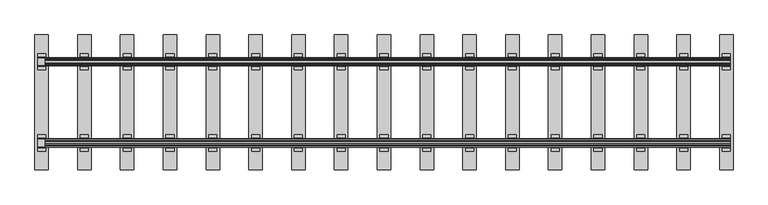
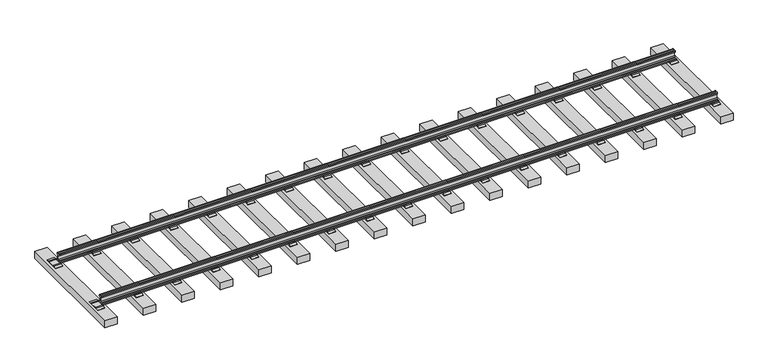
"""IFC4 building model written with IfcOpenShell, lengths in millimetres: railing geometry, Koleje."""

from ifc_helpers import new_model, si_unit, point, frame, frame_2d, origin, place, context, project, spatial, polyline, circle_curve, trimmed, segment, composite_curve, outline, extrude, source, transform, mapped, element, save


def railing_398ba902(model_context):
    return source(origin(), model_context, "Body", "SweptSolid", [
        extrude(outline(composite_curve([segment(polyline([(15149.673338, 161.9663444), (15122.673338, 147.0), (15122.673338, 65.0)]), True, "CONTINUOUS"), segment(trimmed(circle_curve(frame_2d((15143.173338, 65.0)), 20.5), [point((15122.673338, 65.0))], [point((15137.3259039, 45.3516536))], True, "CARTESIAN"), True, "CONTINUOUS"), segment(polyline([(15137.3259039, 45.3516536), (15154.9174827, 39.9733683)]), True, "CONTINUOUS"), segment(trimmed(circle_curve(frame_2d((15177.8072191, 126.5921559)), 89.5921559), [point((15154.9174827, 39.9733683))], [point((15177.8072191, 37.0))], True, "CARTESIAN"), True, "CONTINUOUS"), segment(polyline([(15177.8072191, 37.0), (15187.673338, 37.0), (15187.673338, 15.0), (15037.673338, 15.0), (15037.673338, 37.0), (15047.539457, 37.0)]), True, "CONTINUOUS"), segment(trimmed(circle_curve(frame_2d((15047.539457, 116.8785391)), 79.8785391), [point((15047.539457, 37.0))], [point((15070.4291934, 40.3498453))], True, "CARTESIAN"), True, "CONTINUOUS"), segment(polyline([(15070.4291934, 40.3498453), (15088.0207721, 45.7281306)]), True, "CONTINUOUS"), segment(trimmed(circle_curve(frame_2d((15082.673338, 65.0)), 20.0), [point((15088.0207721, 45.7281306))], [point((15102.673338, 65.0))], True, "CARTESIAN"), True, "CONTINUOUS"), segment(polyline([(15102.673338, 65.0), (15102.673338, 147.0), (15075.673338, 161.9663444), (15075.673338, 176.5)]), True, "CONTINUOUS"), segment(trimmed(circle_curve(frame_2d((15094.173338, 176.5)), 18.5), [point((15075.673338, 176.5))], [point((15094.173338, 195.0))], False, "CARTESIAN"), True, "CONTINUOUS"), segment(polyline([(15094.173338, 195.0), (15131.173338, 195.0)]), True, "CONTINUOUS"), segment(trimmed(circle_curve(frame_2d((15131.173338, 176.5)), 18.5), [point((15131.173338, 195.0))], [point((15149.673338, 176.5))], False, "CARTESIAN"), True, "CONTINUOUS"), segment(polyline([(15149.673338, 176.5), (15149.673338, 161.9663444)]), True, "CONTINUOUS")], self_intersect=False)), frame((27322.5749198, 0.0, 0.0), z_axis=(1.0, 0.0, 0.0), x_axis=(0.0, 1.0, 0.0)), (0.0, 0.0, 1.0), 12700.0),
        extrude(outline(composite_curve([segment(polyline([(16658.673338, 161.9663444), (16631.673338, 147.0), (16631.673338, 65.0)]), True, "CONTINUOUS"), segment(trimmed(circle_curve(frame_2d((16652.173338, 65.0)), 20.5), [point((16631.673338, 65.0))], [point((16646.3259039, 45.3516536))], True, "CARTESIAN"), True, "CONTINUOUS"), segment(polyline([(16646.3259039, 45.3516536), (16663.9174827, 39.9733683)]), True, "CONTINUOUS"), segment(trimmed(circle_curve(frame_2d((16686.8072191, 126.5921559)), 89.5921559), [point((16663.9174827, 39.9733683))], [point((16686.8072191, 37.0))], True, "CARTESIAN"), True, "CONTINUOUS"), segment(polyline([(16686.8072191, 37.0), (16696.673338, 37.0), (16696.673338, 15.0), (16546.673338, 15.0), (16546.673338, 37.0), (16556.539457, 37.0)]), True, "CONTINUOUS"), segment(trimmed(circle_curve(frame_2d((16556.539457, 116.8785391)), 79.8785391), [point((16556.539457, 37.0))], [point((16579.4291934, 40.3498453))], True, "CARTESIAN"), True, "CONTINUOUS"), segment(polyline([(16579.4291934, 40.3498453), (16597.0207721, 45.7281306)]), True, "CONTINUOUS"), segment(trimmed(circle_curve(frame_2d((16591.673338, 65.0)), 20.0), [point((16597.0207721, 45.7281306))], [point((16611.673338, 65.0))], True, "CARTESIAN"), True, "CONTINUOUS"), segment(polyline([(16611.673338, 65.0), (16611.673338, 147.0), (16584.673338, 161.9663444), (16584.673338, 176.5)]), True, "CONTINUOUS"), segment(trimmed(circle_curve(frame_2d((16603.173338, 176.5)), 18.5), [point((16584.673338, 176.5))], [point((16603.173338, 195.0))], False, "CARTESIAN"), True, "CONTINUOUS"), segment(polyline([(16603.173338, 195.0), (16640.173338, 195.0)]), True, "CONTINUOUS"), segment(trimmed(circle_curve(frame_2d((16640.173338, 176.5)), 18.5), [point((16640.173338, 195.0))], [point((16658.673338, 176.5))], False, "CARTESIAN"), True, "CONTINUOUS"), segment(polyline([(16658.673338, 176.5), (16658.673338, 161.9663444)]), True, "CONTINUOUS")], self_intersect=False)), frame((27322.5749198, 0.0, 0.0), z_axis=(1.0, 0.0, 0.0), x_axis=(0.0, 1.0, 0.0)), (0.0, 0.0, 1.0), 12700.0),
        extrude(outline(polyline([(16771.673338, 0.0), (16471.673338, 0.0), (16471.673338, 7.5), (16531.673338, 15.0), (16546.673338, 30.0), (16546.673338, 15.0), (16696.673338, 15.0), (16696.673338, 30.0), (16711.673338, 15.0), (16771.673338, 7.5), (16771.673338, 0.0)])), frame((39085.9618427, 0.0, 0.0), z_axis=(1.0, 0.0, 0.0), x_axis=(0.0, 1.0, 0.0)), (0.0, 0.0, 1.0), 150.0),
        extrude(outline(polyline([(15262.673338, 0.0), (14962.673338, 0.0), (14962.673338, 7.5), (15022.673338, 15.0), (15037.673338, 30.0), (15037.673338, 15.0), (15187.673338, 15.0), (15187.673338, 30.0), (15202.673338, 15.0), (15262.673338, 7.5), (15262.673338, 0.0)])), frame((39085.9618427, 0.0, 0.0), z_axis=(1.0, 0.0, 0.0), x_axis=(0.0, 1.0, 0.0)), (0.0, 0.0, 1.0), 150.0),
        extrude(outline(polyline([(39035.9618427, 17117.173338), (39285.9618427, 17117.173338), (39285.9618427, 14617.173338), (39035.9618427, 14617.173338), (39035.9618427, 17117.173338)])), frame((0.0, 0.0, -150.0), z_axis=(0.0, 0.0, 1.0), x_axis=(1.0, 0.0, 0.0)), (0.0, 0.0, 1.0), 150.0),
        extrude(outline(polyline([(16771.673338, 0.0), (16471.673338, 0.0), (16471.673338, 7.5), (16531.673338, 15.0), (16546.673338, 30.0), (16546.673338, 15.0), (16696.673338, 15.0), (16696.673338, 30.0), (16711.673338, 15.0), (16771.673338, 7.5), (16771.673338, 0.0)])), frame((38292.2118427, 0.0, 0.0), z_axis=(1.0, 0.0, 0.0), x_axis=(0.0, 1.0, 0.0)), (0.0, 0.0, 1.0), 150.0),
        extrude(outline(polyline([(15262.673338, 0.0), (14962.673338, 0.0), (14962.673338, 7.5), (15022.673338, 15.0), (15037.673338, 30.0), (15037.673338, 15.0), (15187.673338, 15.0), (15187.673338, 30.0), (15202.673338, 15.0), (15262.673338, 7.5), (15262.673338, 0.0)])), frame((38292.2118427, 0.0, 0.0), z_axis=(1.0, 0.0, 0.0), x_axis=(0.0, 1.0, 0.0)), (0.0, 0.0, 1.0), 150.0),
        extrude(outline(polyline([(38242.2118427, 17117.173338), (38492.2118427, 17117.173338), (38492.2118427, 14617.173338), (38242.2118427, 14617.173338), (38242.2118427, 17117.173338)])), frame((0.0, 0.0, -150.0), z_axis=(0.0, 0.0, 1.0), x_axis=(1.0, 0.0, 0.0)), (0.0, 0.0, 1.0), 150.0),
        extrude(outline(polyline([(16771.673338, 0.0), (16471.673338, 0.0), (16471.673338, 7.5), (16531.673338, 15.0), (16546.673338, 30.0), (16546.673338, 15.0), (16696.673338, 15.0), (16696.673338, 30.0), (16711.673338, 15.0), (16771.673338, 7.5), (16771.673338, 0.0)])), frame((37498.4618427, 0.0, 0.0), z_axis=(1.0, 0.0, 0.0), x_axis=(0.0, 1.0, 0.0)), (0.0, 0.0, 1.0), 150.0),
        extrude(outline(polyline([(15262.673338, 0.0), (14962.673338, 0.0), (14962.673338, 7.5), (15022.673338, 15.0), (15037.673338, 30.0), (15037.673338, 15.0), (15187.673338, 15.0), (15187.673338, 30.0), (15202.673338, 15.0), (15262.673338, 7.5), (15262.673338, 0.0)])), frame((37498.4618427, 0.0, 0.0), z_axis=(1.0, 0.0, 0.0), x_axis=(0.0, 1.0, 0.0)), (0.0, 0.0, 1.0), 150.0),
        extrude(outline(polyline([(37448.4618427, 17117.173338), (37698.4618427, 17117.173338), (37698.4618427, 14617.173338), (37448.4618427, 14617.173338), (37448.4618427, 17117.173338)])), frame((0.0, 0.0, -150.0), z_axis=(0.0, 0.0, 1.0), x_axis=(1.0, 0.0, 0.0)), (0.0, 0.0, 1.0), 150.0),
        extrude(outline(polyline([(16771.673338, 0.0), (16471.673338, 0.0), (16471.673338, 7.5), (16531.673338, 15.0), (16546.673338, 30.0), (16546.673338, 15.0), (16696.673338, 15.0), (16696.673338, 30.0), (16711.673338, 15.0), (16771.673338, 7.5), (16771.673338, 0.0)])), frame((36704.7118427, 0.0, 0.0), z_axis=(1.0, 0.0, 0.0), x_axis=(0.0, 1.0, 0.0)), (0.0, 0.0, 1.0), 150.0),
        extrude(outline(polyline([(15262.673338, 0.0), (14962.673338, 0.0), (14962.673338, 7.5), (15022.673338, 15.0), (15037.673338, 30.0), (15037.673338, 15.0), (15187.673338, 15.0), (15187.673338, 30.0), (15202.673338, 15.0), (15262.673338, 7.5), (15262.673338, 0.0)])), frame((36704.7118427, 0.0, 0.0), z_axis=(1.0, 0.0, 0.0), x_axis=(0.0, 1.0, 0.0)), (0.0, 0.0, 1.0), 150.0),
        extrude(outline(polyline([(36654.7118427, 17117.173338), (36904.7118427, 17117.173338), (36904.7118427, 14617.173338), (36654.7118427, 14617.173338), (36654.7118427, 17117.173338)])), frame((0.0, 0.0, -150.0), z_axis=(0.0, 0.0, 1.0), x_axis=(1.0, 0.0, 0.0)), (0.0, 0.0, 1.0), 150.0),
        extrude(outline(polyline([(16771.673338, 0.0), (16471.673338, 0.0), (16471.673338, 7.5), (16531.673338, 15.0), (16546.673338, 30.0), (16546.673338, 15.0), (16696.673338, 15.0), (16696.673338, 30.0), (16711.673338, 15.0), (16771.673338, 7.5), (16771.673338, 0.0)])), frame((35910.9618427, 0.0, 0.0), z_axis=(1.0, 0.0, 0.0), x_axis=(0.0, 1.0, 0.0)), (0.0, 0.0, 1.0), 150.0),
        extrude(outline(polyline([(15262.673338, 0.0), (14962.673338, 0.0), (14962.673338, 7.5), (15022.673338, 15.0), (15037.673338, 30.0), (15037.673338, 15.0), (15187.673338, 15.0), (15187.673338, 30.0), (15202.673338, 15.0), (15262.673338, 7.5), (15262.673338, 0.0)])), frame((35910.9618427, 0.0, 0.0), z_axis=(1.0, 0.0, 0.0), x_axis=(0.0, 1.0, 0.0)), (0.0, 0.0, 1.0), 150.0),
        extrude(outline(polyline([(35860.9618427, 17117.173338), (36110.9618427, 17117.173338), (36110.9618427, 14617.173338), (35860.9618427, 14617.173338), (35860.9618427, 17117.173338)])), frame((0.0, 0.0, -150.0), z_axis=(0.0, 0.0, 1.0), x_axis=(1.0, 0.0, 0.0)), (0.0, 0.0, 1.0), 150.0),
        extrude(outline(polyline([(16771.673338, 0.0), (16471.673338, 0.0), (16471.673338, 7.5), (16531.673338, 15.0), (16546.673338, 30.0), (16546.673338, 15.0), (16696.673338, 15.0), (16696.673338, 30.0), (16711.673338, 15.0), (16771.673338, 7.5), (16771.673338, 0.0)])), frame((35117.2118427, 0.0, 0.0), z_axis=(1.0, 0.0, 0.0), x_axis=(0.0, 1.0, 0.0)), (0.0, 0.0, 1.0), 150.0),
        extrude(outline(polyline([(15262.673338, 0.0), (14962.673338, 0.0), (14962.673338, 7.5), (15022.673338, 15.0), (15037.673338, 30.0), (15037.673338, 15.0), (15187.673338, 15.0), (15187.673338, 30.0), (15202.673338, 15.0), (15262.673338, 7.5), (15262.673338, 0.0)])), frame((35117.2118427, 0.0, 0.0), z_axis=(1.0, 0.0, 0.0), x_axis=(0.0, 1.0, 0.0)), (0.0, 0.0, 1.0), 150.0),
        extrude(outline(polyline([(35067.2118427, 17117.173338), (35317.2118427, 17117.173338), (35317.2118427, 14617.173338), (35067.2118427, 14617.173338), (35067.2118427, 17117.173338)])), frame((0.0, 0.0, -150.0), z_axis=(0.0, 0.0, 1.0), x_axis=(1.0, 0.0, 0.0)), (0.0, 0.0, 1.0), 150.0),
        extrude(outline(polyline([(16771.673338, 0.0), (16471.673338, 0.0), (16471.673338, 7.5), (16531.673338, 15.0), (16546.673338, 30.0), (16546.673338, 15.0), (16696.673338, 15.0), (16696.673338, 30.0), (16711.673338, 15.0), (16771.673338, 7.5), (16771.673338, 0.0)])), frame((34323.4618427, 0.0, 0.0), z_axis=(1.0, 0.0, 0.0), x_axis=(0.0, 1.0, 0.0)), (0.0, 0.0, 1.0), 150.0),
        extrude(outline(polyline([(15262.673338, 0.0), (14962.673338, 0.0), (14962.673338, 7.5), (15022.673338, 15.0), (15037.673338, 30.0), (15037.673338, 15.0), (15187.673338, 15.0), (15187.673338, 30.0), (15202.673338, 15.0), (15262.673338, 7.5), (15262.673338, 0.0)])), frame((34323.4618427, 0.0, 0.0), z_axis=(1.0, 0.0, 0.0), x_axis=(0.0, 1.0, 0.0)), (0.0, 0.0, 1.0), 150.0),
        extrude(outline(polyline([(34273.4618427, 17117.173338), (34523.4618427, 17117.173338), (34523.4618427, 14617.173338), (34273.4618427, 14617.173338), (34273.4618427, 17117.173338)])), frame((0.0, 0.0, -150.0), z_axis=(0.0, 0.0, 1.0), x_axis=(1.0, 0.0, 0.0)), (0.0, 0.0, 1.0), 150.0),
        extrude(outline(polyline([(16771.673338, 0.0), (16471.673338, 0.0), (16471.673338, 7.5), (16531.673338, 15.0), (16546.673338, 30.0), (16546.673338, 15.0), (16696.673338, 15.0), (16696.673338, 30.0), (16711.673338, 15.0), (16771.673338, 7.5), (16771.673338, 0.0)])), frame((33529.7118427, 0.0, 0.0), z_axis=(1.0, 0.0, 0.0), x_axis=(0.0, 1.0, 0.0)), (0.0, 0.0, 1.0), 150.0),
        extrude(outline(polyline([(15262.673338, 0.0), (14962.673338, 0.0), (14962.673338, 7.5), (15022.673338, 15.0), (15037.673338, 30.0), (15037.673338, 15.0), (15187.673338, 15.0), (15187.673338, 30.0), (15202.673338, 15.0), (15262.673338, 7.5), (15262.673338, 0.0)])), frame((33529.7118427, 0.0, 0.0), z_axis=(1.0, 0.0, 0.0), x_axis=(0.0, 1.0, 0.0)), (0.0, 0.0, 1.0), 150.0),
        extrude(outline(polyline([(33479.7118427, 17117.173338), (33729.7118427, 17117.173338), (33729.7118427, 14617.173338), (33479.7118427, 14617.173338), (33479.7118427, 17117.173338)])), frame((0.0, 0.0, -150.0), z_axis=(0.0, 0.0, 1.0), x_axis=(1.0, 0.0, 0.0)), (0.0, 0.0, 1.0), 150.0),
        extrude(outline(polyline([(16771.673338, 0.0), (16471.673338, 0.0), (16471.673338, 7.5), (16531.673338, 15.0), (16546.673338, 30.0), (16546.673338, 15.0), (16696.673338, 15.0), (16696.673338, 30.0), (16711.673338, 15.0), (16771.673338, 7.5), (16771.673338, 0.0)])), frame((32735.9618427, 0.0, 0.0), z_axis=(1.0, 0.0, 0.0), x_axis=(0.0, 1.0, 0.0)), (0.0, 0.0, 1.0), 150.0),
        extrude(outline(polyline([(15262.673338, 0.0), (14962.673338, 0.0), (14962.673338, 7.5), (15022.673338, 15.0), (15037.673338, 30.0), (15037.673338, 15.0), (15187.673338, 15.0), (15187.673338, 30.0), (15202.673338, 15.0), (15262.673338, 7.5), (15262.673338, 0.0)])), frame((32735.9618427, 0.0, 0.0), z_axis=(1.0, 0.0, 0.0), x_axis=(0.0, 1.0, 0.0)), (0.0, 0.0, 1.0), 150.0),
        extrude(outline(polyline([(32685.9618427, 17117.173338), (32935.9618427, 17117.173338), (32935.9618427, 14617.173338), (32685.9618427, 14617.173338), (32685.9618427, 17117.173338)])), frame((0.0, 0.0, -150.0), z_axis=(0.0, 0.0, 1.0), x_axis=(1.0, 0.0, 0.0)), (0.0, 0.0, 1.0), 150.0),
        extrude(outline(polyline([(16771.673338, 0.0), (16471.673338, 0.0), (16471.673338, 7.5), (16531.673338, 15.0), (16546.673338, 30.0), (16546.673338, 15.0), (16696.673338, 15.0), (16696.673338, 30.0), (16711.673338, 15.0), (16771.673338, 7.5), (16771.673338, 0.0)])), frame((31942.2118427, 0.0, 0.0), z_axis=(1.0, 0.0, 0.0), x_axis=(0.0, 1.0, 0.0)), (0.0, 0.0, 1.0), 150.0),
        extrude(outline(polyline([(15262.673338, 0.0), (14962.673338, 0.0), (14962.673338, 7.5), (15022.673338, 15.0), (15037.673338, 30.0), (15037.673338, 15.0), (15187.673338, 15.0), (15187.673338, 30.0), (15202.673338, 15.0), (15262.673338, 7.5), (15262.673338, 0.0)])), frame((31942.2118427, 0.0, 0.0), z_axis=(1.0, 0.0, 0.0), x_axis=(0.0, 1.0, 0.0)), (0.0, 0.0, 1.0), 150.0),
        extrude(outline(polyline([(31892.2118427, 17117.173338), (32142.2118427, 17117.173338), (32142.2118427, 14617.173338), (31892.2118427, 14617.173338), (31892.2118427, 17117.173338)])), frame((0.0, 0.0, -150.0), z_axis=(0.0, 0.0, 1.0), x_axis=(1.0, 0.0, 0.0)), (0.0, 0.0, 1.0), 150.0),
        extrude(outline(polyline([(16771.673338, 0.0), (16471.673338, 0.0), (16471.673338, 7.5), (16531.673338, 15.0), (16546.673338, 30.0), (16546.673338, 15.0), (16696.673338, 15.0), (16696.673338, 30.0), (16711.673338, 15.0), (16771.673338, 7.5), (16771.673338, 0.0)])), frame((31148.4618427, 0.0, 0.0), z_axis=(1.0, 0.0, 0.0), x_axis=(0.0, 1.0, 0.0)), (0.0, 0.0, 1.0), 150.0),
        extrude(outline(polyline([(15262.673338, 0.0), (14962.673338, 0.0), (14962.673338, 7.5), (15022.673338, 15.0), (15037.673338, 30.0), (15037.673338, 15.0), (15187.673338, 15.0), (15187.673338, 30.0), (15202.673338, 15.0), (15262.673338, 7.5), (15262.673338, 0.0)])), frame((31148.4618427, 0.0, 0.0), z_axis=(1.0, 0.0, 0.0), x_axis=(0.0, 1.0, 0.0)), (0.0, 0.0, 1.0), 150.0),
        extrude(outline(polyline([(31098.4618427, 17117.173338), (31348.4618427, 17117.173338), (31348.4618427, 14617.173338), (31098.4618427, 14617.173338), (31098.4618427, 17117.173338)])), frame((0.0, 0.0, -150.0), z_axis=(0.0, 0.0, 1.0), x_axis=(1.0, 0.0, 0.0)), (0.0, 0.0, 1.0), 150.0),
        extrude(outline(polyline([(16771.673338, 0.0), (16471.673338, 0.0), (16471.673338, 7.5), (16531.673338, 15.0), (16546.673338, 30.0), (16546.673338, 15.0), (16696.673338, 15.0), (16696.673338, 30.0), (16711.673338, 15.0), (16771.673338, 7.5), (16771.673338, 0.0)])), frame((30354.7118427, 0.0, 0.0), z_axis=(1.0, 0.0, 0.0), x_axis=(0.0, 1.0, 0.0)), (0.0, 0.0, 1.0), 150.0),
        extrude(outline(polyline([(15262.673338, 0.0), (14962.673338, 0.0), (14962.673338, 7.5), (15022.673338, 15.0), (15037.673338, 30.0), (15037.673338, 15.0), (15187.673338, 15.0), (15187.673338, 30.0), (15202.673338, 15.0), (15262.673338, 7.5), (15262.673338, 0.0)])), frame((30354.7118427, 0.0, 0.0), z_axis=(1.0, 0.0, 0.0), x_axis=(0.0, 1.0, 0.0)), (0.0, 0.0, 1.0), 150.0),
        extrude(outline(polyline([(30304.7118427, 17117.173338), (30554.7118427, 17117.173338), (30554.7118427, 14617.173338), (30304.7118427, 14617.173338), (30304.7118427, 17117.173338)])), frame((0.0, 0.0, -150.0), z_axis=(0.0, 0.0, 1.0), x_axis=(1.0, 0.0, 0.0)), (0.0, 0.0, 1.0), 150.0),
        extrude(outline(polyline([(16771.673338, 0.0), (16471.673338, 0.0), (16471.673338, 7.5), (16531.673338, 15.0), (16546.673338, 30.0), (16546.673338, 15.0), (16696.673338, 15.0), (16696.673338, 30.0), (16711.673338, 15.0), (16771.673338, 7.5), (16771.673338, 0.0)])), frame((29560.9618427, 0.0, 0.0), z_axis=(1.0, 0.0, 0.0), x_axis=(0.0, 1.0, 0.0)), (0.0, 0.0, 1.0), 150.0),
        extrude(outline(polyline([(15262.673338, 0.0), (14962.673338, 0.0), (14962.673338, 7.5), (15022.673338, 15.0), (15037.673338, 30.0), (15037.673338, 15.0), (15187.673338, 15.0), (15187.673338, 30.0), (15202.673338, 15.0), (15262.673338, 7.5), (15262.673338, 0.0)])), frame((29560.9618427, 0.0, 0.0), z_axis=(1.0, 0.0, 0.0), x_axis=(0.0, 1.0, 0.0)), (0.0, 0.0, 1.0), 150.0),
        extrude(outline(polyline([(29510.9618427, 17117.173338), (29760.9618427, 17117.173338), (29760.9618427, 14617.173338), (29510.9618427, 14617.173338), (29510.9618427, 17117.173338)])), frame((0.0, 0.0, -150.0), z_axis=(0.0, 0.0, 1.0), x_axis=(1.0, 0.0, 0.0)), (0.0, 0.0, 1.0), 150.0),
        extrude(outline(polyline([(16771.673338, 0.0), (16471.673338, 0.0), (16471.673338, 7.5), (16531.673338, 15.0), (16546.673338, 30.0), (16546.673338, 15.0), (16696.673338, 15.0), (16696.673338, 30.0), (16711.673338, 15.0), (16771.673338, 7.5), (16771.673338, 0.0)])), frame((28767.2118427, 0.0, 0.0), z_axis=(1.0, 0.0, 0.0), x_axis=(0.0, 1.0, 0.0)), (0.0, 0.0, 1.0), 150.0),
        extrude(outline(polyline([(15262.673338, 0.0), (14962.673338, 0.0), (14962.673338, 7.5), (15022.673338, 15.0), (15037.673338, 30.0), (15037.673338, 15.0), (15187.673338, 15.0), (15187.673338, 30.0), (15202.673338, 15.0), (15262.673338, 7.5), (15262.673338, 0.0)])), frame((28767.2118427, 0.0, 0.0), z_axis=(1.0, 0.0, 0.0), x_axis=(0.0, 1.0, 0.0)), (0.0, 0.0, 1.0), 150.0),
        extrude(outline(polyline([(28717.2118427, 17117.173338), (28967.2118427, 17117.173338), (28967.2118427, 14617.173338), (28717.2118427, 14617.173338), (28717.2118427, 17117.173338)])), frame((0.0, 0.0, -150.0), z_axis=(0.0, 0.0, 1.0), x_axis=(1.0, 0.0, 0.0)), (0.0, 0.0, 1.0), 150.0),
        extrude(outline(polyline([(16771.673338, 0.0), (16471.673338, 0.0), (16471.673338, 7.5), (16531.673338, 15.0), (16546.673338, 30.0), (16546.673338, 15.0), (16696.673338, 15.0), (16696.673338, 30.0), (16711.673338, 15.0), (16771.673338, 7.5), (16771.673338, 0.0)])), frame((27973.4618427, 0.0, 0.0), z_axis=(1.0, 0.0, 0.0), x_axis=(0.0, 1.0, 0.0)), (0.0, 0.0, 1.0), 150.0),
        extrude(outline(polyline([(15262.673338, 0.0), (14962.673338, 0.0), (14962.673338, 7.5), (15022.673338, 15.0), (15037.673338, 30.0), (15037.673338, 15.0), (15187.673338, 15.0), (15187.673338, 30.0), (15202.673338, 15.0), (15262.673338, 7.5), (15262.673338, 0.0)])), frame((27973.4618427, 0.0, 0.0), z_axis=(1.0, 0.0, 0.0), x_axis=(0.0, 1.0, 0.0)), (0.0, 0.0, 1.0), 150.0),
        extrude(outline(polyline([(27923.4618427, 17117.173338), (28173.4618427, 17117.173338), (28173.4618427, 14617.173338), (27923.4618427, 14617.173338), (27923.4618427, 17117.173338)])), frame((0.0, 0.0, -150.0), z_axis=(0.0, 0.0, 1.0), x_axis=(1.0, 0.0, 0.0)), (0.0, 0.0, 1.0), 150.0),
        extrude(outline(polyline([(16771.673338, 0.0), (16471.673338, 0.0), (16471.673338, 7.5), (16531.673338, 15.0), (16546.673338, 30.0), (16546.673338, 15.0), (16696.673338, 15.0), (16696.673338, 30.0), (16711.673338, 15.0), (16771.673338, 7.5), (16771.673338, 0.0)])), frame((39879.7118427, 0.0, 0.0), z_axis=(1.0, 0.0, 0.0), x_axis=(0.0, 1.0, 0.0)), (0.0, 0.0, 1.0), 150.0),
        extrude(outline(polyline([(15262.673338, 0.0), (14962.673338, 0.0), (14962.673338, 7.5), (15022.673338, 15.0), (15037.673338, 30.0), (15037.673338, 15.0), (15187.673338, 15.0), (15187.673338, 30.0), (15202.673338, 15.0), (15262.673338, 7.5), (15262.673338, 0.0)])), frame((39879.7118427, 0.0, 0.0), z_axis=(1.0, 0.0, 0.0), x_axis=(0.0, 1.0, 0.0)), (0.0, 0.0, 1.0), 150.0),
        extrude(outline(polyline([(39829.7118427, 17117.173338), (40079.7118427, 17117.173338), (40079.7118427, 14617.173338), (39829.7118427, 14617.173338), (39829.7118427, 17117.173338)])), frame((0.0, 0.0, -150.0), z_axis=(0.0, 0.0, 1.0), x_axis=(1.0, 0.0, 0.0)), (0.0, 0.0, 1.0), 150.0),
        extrude(outline(polyline([(16771.673338, 0.0), (16471.673338, 0.0), (16471.673338, 7.5), (16531.673338, 15.0), (16546.673338, 30.0), (16546.673338, 15.0), (16696.673338, 15.0), (16696.673338, 30.0), (16711.673338, 15.0), (16771.673338, 7.5), (16771.673338, 0.0)])), frame((27179.7118427, 0.0, 0.0), z_axis=(1.0, 0.0, 0.0), x_axis=(0.0, 1.0, 0.0)), (0.0, 0.0, 1.0), 150.0),
        extrude(outline(polyline([(15262.673338, 0.0), (14962.673338, 0.0), (14962.673338, 7.5), (15022.673338, 15.0), (15037.673338, 30.0), (15037.673338, 15.0), (15187.673338, 15.0), (15187.673338, 30.0), (15202.673338, 15.0), (15262.673338, 7.5), (15262.673338, 0.0)])), frame((27179.7118427, 0.0, 0.0), z_axis=(1.0, 0.0, 0.0), x_axis=(0.0, 1.0, 0.0)), (0.0, 0.0, 1.0), 150.0),
        extrude(outline(polyline([(27129.7118427, 17117.173338), (27379.7118427, 17117.173338), (27379.7118427, 14617.173338), (27129.7118427, 14617.173338), (27129.7118427, 17117.173338)])), frame((0.0, 0.0, -150.0), z_axis=(0.0, 0.0, 1.0), x_axis=(1.0, 0.0, 0.0)), (0.0, 0.0, 1.0), 150.0),
    ])


if __name__ == "__main__":
    model = new_model("IFC4")
    model_context = context("Model", 3, world=origin())
    ifc_project = project(units=[si_unit("LENGTHUNIT", "METRE", prefix="MILLI")], contexts=[model_context])
    site = spatial("IfcSite", under=ifc_project)
    building = spatial("IfcBuilding", under=site)
    placement = place(None, origin())
    railing_shape = railing_398ba902(model_context)
    element("IfcRailing", 1, ObjectType="Koleje", at=placement, inside=building, context=model_context, shape_type="MappedRepresentation", body=[
        mapped(railing_shape, transform((0.0, 0.0, 0.0), x_axis=(1.0, 0.0, 0.0), y_axis=(0.0, 1.0, 0.0), z_axis=(0.0, 0.0, 1.0))),
    ])
    save(model, "model.ifc")
